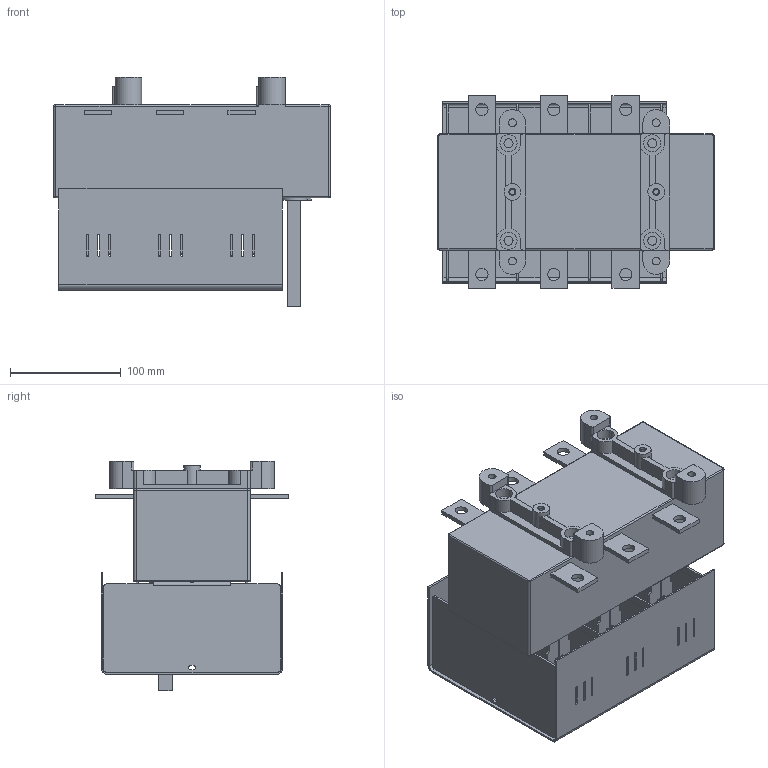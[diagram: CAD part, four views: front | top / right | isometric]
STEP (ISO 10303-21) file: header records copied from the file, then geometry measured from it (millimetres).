
FILE_DESCRIPTION(/* description */ (''),/* implementation_level */ '2;1');
FILE_NAME(/* name */ 'RAB 1 P3.stp',/* time_stamp */ '2021-08-19T12:07:56+02:00',/* author */ (''),/* organization */ (''),/* preprocessor_version */ 'ST-DEVELOPER v18.1',/* originating_system */ 'SIEMENS PLM Software NX 1965',/* authorisation */ '');
FILE_SCHEMA (('AUTOMOTIVE_DESIGN { 1 0 10303 214 3 1 1 1 }'));
Length unit declared in the file: millimetre
Products named in the file (1): RAB 1 P3_stp
Bounding box: 250 x 174 x 207.3 mm (x, y, z)
Volume: 2494040.4 mm3; surface area: 426176.1 mm2
Topology: 1 solids, 1 shells, 966 faces, 2676 edges, 1750 vertices
Faces by surface type: plane 634, cylinder 324, torus 5, bspline 3
Full cylindrical faces by diameter (mm): 4.8 x2, 6.2 x2, 7 x4, 8.2 x4, 11 x6, 14 x4, 15 x2, 15.5 x4
Entity records: 30873 total; most frequent: CARTESIAN_POINT 5436, ORIENTED_EDGE 5280, DIRECTION 5236, EDGE_CURVE 2640, LINE 1960, VECTOR 1960, VERTEX_POINT 1742, AXIS2_PLACEMENT_3D 1638
